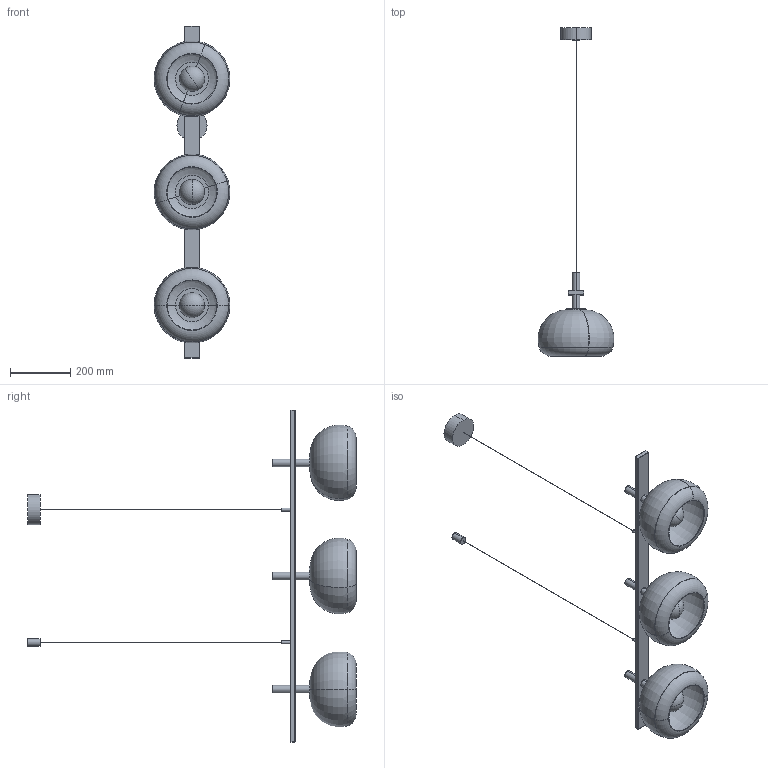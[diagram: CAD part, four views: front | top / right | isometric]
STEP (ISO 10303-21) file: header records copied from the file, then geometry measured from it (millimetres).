
FILE_DESCRIPTION (( 'STEP AP214' ), '1' );
FILE_NAME ('CLOUD_C1345_3.STEP', '2025-09-05T09:39:33', ( '' ), ( '' ), 'SwSTEP 2.0', 'SolidWorks 2018', '' );
FILE_SCHEMA (( 'AUTOMOTIVE_DESIGN' ));
Length unit declared in the file: millimetre
Products named in the file (1): CLOUD_C1345_3
Bounding box: 251.7 x 1087.19 x 1100 mm (x, y, z)
Volume: 3194895.7 mm3; surface area: 1215226.5 mm2
Topology: 23 solids, 23 shells, 174 faces, 332 edges, 195 vertices
Faces by surface type: cylinder 72, plane 52, torus 42, sphere 8
Entity records: 6530 total; most frequent: DIRECTION 902, CARTESIAN_POINT 688, ORIENTED_EDGE 636, AXIS2_PLACEMENT_3D 409, EDGE_CURVE 318, CIRCLE 234, UNCERTAINTY_MEASURE_WITH_UNIT 199, PRESENTATION_STYLE_ASSIGNMENT 198
